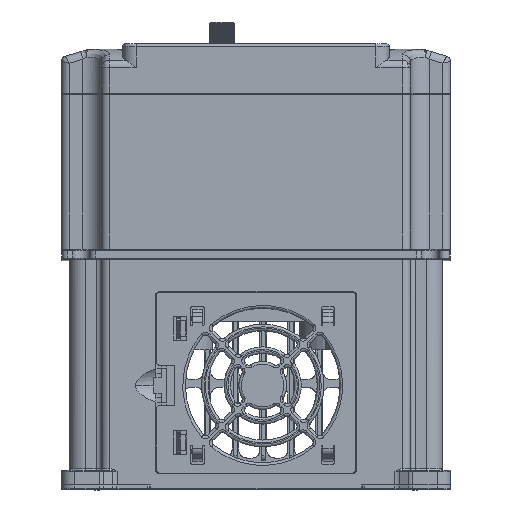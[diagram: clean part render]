
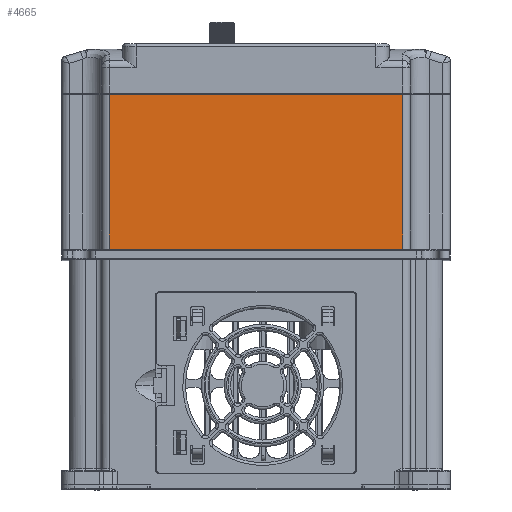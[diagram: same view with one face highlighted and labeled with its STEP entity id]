
A CAD part, top view. The second image highlights one B-rep face of the part: STEP entity #4665.
In plain terms, the highlighted planar face has unit normal (0, 0, 1) as drawn and (0, 0, -1) by its records, which use the part's own axes.
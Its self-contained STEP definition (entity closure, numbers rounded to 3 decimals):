
#4665 = ADVANCED_FACE ( 'NONE', ( #92299 ), #170463, .T. ) ;
#7162 = ORIENTED_EDGE ( 'NONE', *, *, #138433, .T. ) ;
#36374 = AXIS2_PLACEMENT_3D ( 'NONE', #190573, #76780, #133265 ) ;
#39362 = LINE ( 'NONE', #237572, #143337 ) ;
#43248 = VECTOR ( 'NONE', #223834, 1000. ) ;
#52318 = VERTEX_POINT ( 'NONE', #155998 ) ;
#62146 = VECTOR ( 'NONE', #166668, 1000. ) ;
#76780 = DIRECTION ( 'NONE',  ( 0., 0., -1. ) ) ;
#84444 = DIRECTION ( 'NONE',  ( 0., 1., 0. ) ) ;
#85329 = EDGE_CURVE ( 'NONE', #235948, #52318, #238884, .T. ) ;
#92299 = FACE_OUTER_BOUND ( 'NONE', #167576, .T. ) ;
#103419 = CARTESIAN_POINT ( 'NONE',  ( -55., 58., -128. ) ) ;
#103922 = LINE ( 'NONE', #186745, #43248 ) ;
#116334 = CARTESIAN_POINT ( 'NONE',  ( 55., 0., -128. ) ) ;
#125059 = CARTESIAN_POINT ( 'NONE',  ( -55., 0., -128. ) ) ;
#133265 = DIRECTION ( 'NONE',  ( -1., 0., 0. ) ) ;
#138433 = EDGE_CURVE ( 'NONE', #232727, #159672, #39362, .T. ) ;
#143337 = VECTOR ( 'NONE', #185880, 1000. ) ;
#147338 = CARTESIAN_POINT ( 'NONE',  ( 73., 58., -128. ) ) ;
#155998 = CARTESIAN_POINT ( 'NONE',  ( 55., 58., -128. ) ) ;
#159672 = VERTEX_POINT ( 'NONE', #103419 ) ;
#166668 = DIRECTION ( 'NONE',  ( 1., 0., 0. ) ) ;
#167576 = EDGE_LOOP ( 'NONE', ( #217184, #174531, #219252, #7162 ) ) ;
#170463 = PLANE ( 'NONE',  #36374 ) ;
#174531 = ORIENTED_EDGE ( 'NONE', *, *, #85329, .F. ) ;
#181229 = VECTOR ( 'NONE', #84444, 1000. ) ;
#185880 = DIRECTION ( 'NONE',  ( 0., 1., 0. ) ) ;
#186745 = CARTESIAN_POINT ( 'NONE',  ( 73., 0., -128. ) ) ;
#190573 = CARTESIAN_POINT ( 'NONE',  ( 73., -85., -128. ) ) ;
#211264 = EDGE_CURVE ( 'NONE', #235948, #232727, #103922, .T. ) ;
#215318 = LINE ( 'NONE', #147338, #62146 ) ;
#217184 = ORIENTED_EDGE ( 'NONE', *, *, #236679, .T. ) ;
#219252 = ORIENTED_EDGE ( 'NONE', *, *, #211264, .T. ) ;
#223834 = DIRECTION ( 'NONE',  ( -1., 0., 0. ) ) ;
#229804 = CARTESIAN_POINT ( 'NONE',  ( 55., 58.541, -128. ) ) ;
#232727 = VERTEX_POINT ( 'NONE', #125059 ) ;
#235948 = VERTEX_POINT ( 'NONE', #116334 ) ;
#236679 = EDGE_CURVE ( 'NONE', #159672, #52318, #215318, .T. ) ;
#237572 = CARTESIAN_POINT ( 'NONE',  ( -55., -85., -128. ) ) ;
#238884 = LINE ( 'NONE', #229804, #181229 ) ;
